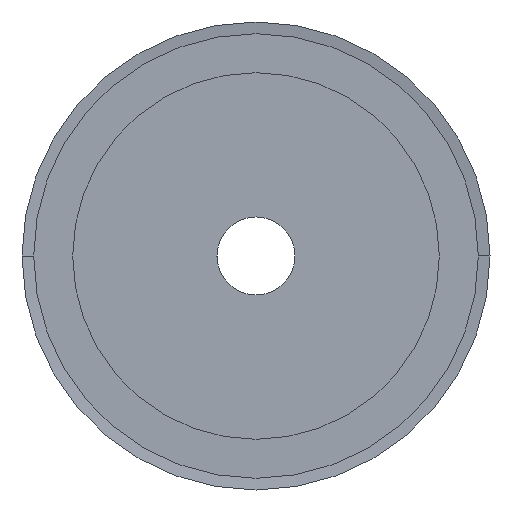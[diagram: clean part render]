
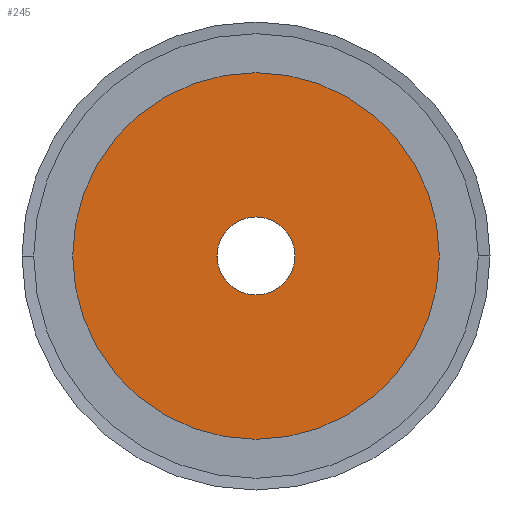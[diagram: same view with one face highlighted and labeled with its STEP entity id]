
A CAD part, left-side view. The second image highlights one B-rep face of the part: STEP entity #245.
In plain terms, the highlighted planar face has unit normal (-1, 0, 0).
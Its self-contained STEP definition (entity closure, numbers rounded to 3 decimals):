
#245 = ADVANCED_FACE( '', ( #593, #594 ), #595, .T. );
#593 = FACE_BOUND( '', #942, .T. );
#594 = FACE_OUTER_BOUND( '', #943, .T. );
#595 = PLANE( '', #944 );
#942 = EDGE_LOOP( '', ( #2419, #2420 ) );
#943 = EDGE_LOOP( '', ( #2421, #2422 ) );
#944 = AXIS2_PLACEMENT_3D( '', #2423, #2424, #2425 );
#2419 = ORIENTED_EDGE( '', *, *, #2904, .F. );
#2420 = ORIENTED_EDGE( '', *, *, #2441, .F. );
#2421 = ORIENTED_EDGE( '', *, *, #2429, .T. );
#2422 = ORIENTED_EDGE( '', *, *, #2909, .T. );
#2423 = CARTESIAN_POINT( '', ( 0., 14.25, 0. ) );
#2424 = DIRECTION( '', ( -1., 0., 0. ) );
#2425 = DIRECTION( '', ( 0., 1., 0. ) );
#2429 = EDGE_CURVE( '', #2911, #2915, #2917, .T. );
#2441 = EDGE_CURVE( '', #2939, #2935, #2941, .T. );
#2904 = EDGE_CURVE( '', #2935, #2939, #3708, .T. );
#2909 = EDGE_CURVE( '', #2915, #2911, #3713, .T. );
#2911 = VERTEX_POINT( '', #3715 );
#2915 = VERTEX_POINT( '', #3720 );
#2917 = CIRCLE( '', #3723, 23.5 );
#2935 = VERTEX_POINT( '', #3745 );
#2939 = VERTEX_POINT( '', #3750 );
#2941 = CIRCLE( '', #3753, 5. );
#3708 = CIRCLE( '', #4784, 5. );
#3713 = CIRCLE( '', #4789, 23.5 );
#3715 = CARTESIAN_POINT( '', ( 0., 23.5, 0. ) );
#3720 = CARTESIAN_POINT( '', ( 0., -23.5, 0. ) );
#3723 = AXIS2_PLACEMENT_3D( '', #4795, #4796, #4797 );
#3745 = CARTESIAN_POINT( '', ( 0., 5., 0. ) );
#3750 = CARTESIAN_POINT( '', ( 0., -5., 0. ) );
#3753 = AXIS2_PLACEMENT_3D( '', #4819, #4820, #4821 );
#4784 = AXIS2_PLACEMENT_3D( '', #5680, #5681, #5682 );
#4789 = AXIS2_PLACEMENT_3D( '', #5695, #5696, #5697 );
#4795 = CARTESIAN_POINT( '', ( 0., 0., 0. ) );
#4796 = DIRECTION( '', ( -1., 0., 0. ) );
#4797 = DIRECTION( '', ( 0., 1., 0. ) );
#4819 = CARTESIAN_POINT( '', ( 0., 0., 0. ) );
#4820 = DIRECTION( '', ( -1., 0., 0. ) );
#4821 = DIRECTION( '', ( 0., 1., 0. ) );
#5680 = CARTESIAN_POINT( '', ( 0., 0., 0. ) );
#5681 = DIRECTION( '', ( -1., 0., 0. ) );
#5682 = DIRECTION( '', ( 0., 1., 0. ) );
#5695 = CARTESIAN_POINT( '', ( 0., 0., 0. ) );
#5696 = DIRECTION( '', ( -1., 0., 0. ) );
#5697 = DIRECTION( '', ( 0., 1., 0. ) );
